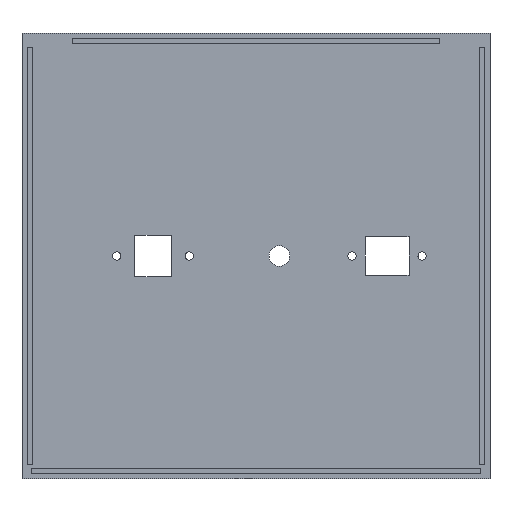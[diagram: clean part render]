
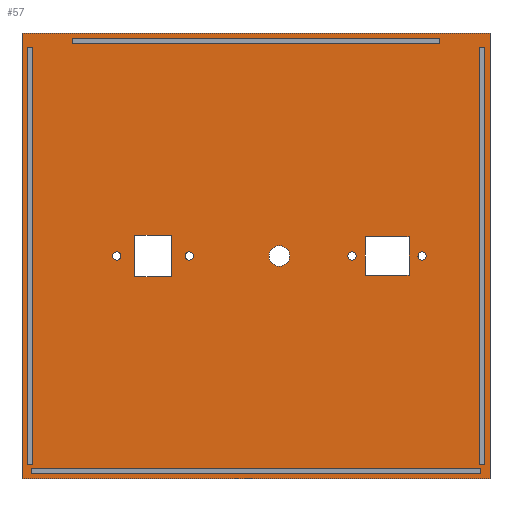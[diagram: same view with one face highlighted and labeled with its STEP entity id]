
A CAD part, front view. The second image highlights one B-rep face of the part: STEP entity #57.
In plain terms, the highlighted planar face has unit normal (0, -1, 0).
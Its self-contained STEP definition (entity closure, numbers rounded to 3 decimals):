
#21 = EDGE_CURVE('',#22,#24,#26,.T.);
#22 = VERTEX_POINT('',#23);
#23 = CARTESIAN_POINT('',(0.,216.,0.));
#24 = VERTEX_POINT('',#25);
#25 = CARTESIAN_POINT('',(0.,216.,172.27));
#26 = LINE('',#27,#28);
#27 = CARTESIAN_POINT('',(0.,216.,0.));
#28 = VECTOR('',#29,1.);
#29 = DIRECTION('',(0.,0.,1.));
#57 = ADVANCED_FACE('',(#58,#83,#117,#128,#162,#173,#207,#218,#229,#263,
    #297,#308),#342,.F.);
#58 = FACE_BOUND('',#59,.F.);
#59 = EDGE_LOOP('',(#60,#68,#69,#77));
#60 = ORIENTED_EDGE('',*,*,#61,.F.);
#61 = EDGE_CURVE('',#22,#62,#64,.T.);
#62 = VERTEX_POINT('',#63);
#63 = CARTESIAN_POINT('',(180.9,216.,0.));
#64 = LINE('',#65,#66);
#65 = CARTESIAN_POINT('',(0.,216.,0.));
#66 = VECTOR('',#67,1.);
#67 = DIRECTION('',(1.,0.,-0.));
#68 = ORIENTED_EDGE('',*,*,#21,.T.);
#69 = ORIENTED_EDGE('',*,*,#70,.T.);
#70 = EDGE_CURVE('',#24,#71,#73,.T.);
#71 = VERTEX_POINT('',#72);
#72 = CARTESIAN_POINT('',(180.9,216.,172.27));
#73 = LINE('',#74,#75);
#74 = CARTESIAN_POINT('',(0.,216.,172.27));
#75 = VECTOR('',#76,1.);
#76 = DIRECTION('',(1.,0.,-0.));
#77 = ORIENTED_EDGE('',*,*,#78,.F.);
#78 = EDGE_CURVE('',#62,#71,#79,.T.);
#79 = LINE('',#80,#81);
#80 = CARTESIAN_POINT('',(180.9,216.,0.));
#81 = VECTOR('',#82,1.);
#82 = DIRECTION('',(0.,0.,1.));
#83 = FACE_BOUND('',#84,.F.);
#84 = EDGE_LOOP('',(#85,#95,#103,#111));
#85 = ORIENTED_EDGE('',*,*,#86,.F.);
#86 = EDGE_CURVE('',#87,#89,#91,.T.);
#87 = VERTEX_POINT('',#88);
#88 = CARTESIAN_POINT('',(2.,216.,5.5));
#89 = VERTEX_POINT('',#90);
#90 = CARTESIAN_POINT('',(2.,216.,166.77));
#91 = LINE('',#92,#93);
#92 = CARTESIAN_POINT('',(2.,216.,5.5));
#93 = VECTOR('',#94,1.);
#94 = DIRECTION('',(0.,0.,1.));
#95 = ORIENTED_EDGE('',*,*,#96,.T.);
#96 = EDGE_CURVE('',#87,#97,#99,.T.);
#97 = VERTEX_POINT('',#98);
#98 = CARTESIAN_POINT('',(4.,216.,5.5));
#99 = LINE('',#100,#101);
#100 = CARTESIAN_POINT('',(2.,216.,5.5));
#101 = VECTOR('',#102,1.);
#102 = DIRECTION('',(1.,0.,-0.));
#103 = ORIENTED_EDGE('',*,*,#104,.T.);
#104 = EDGE_CURVE('',#97,#105,#107,.T.);
#105 = VERTEX_POINT('',#106);
#106 = CARTESIAN_POINT('',(4.,216.,166.77));
#107 = LINE('',#108,#109);
#108 = CARTESIAN_POINT('',(4.,216.,5.5));
#109 = VECTOR('',#110,1.);
#110 = DIRECTION('',(0.,0.,1.));
#111 = ORIENTED_EDGE('',*,*,#112,.F.);
#112 = EDGE_CURVE('',#89,#105,#113,.T.);
#113 = LINE('',#114,#115);
#114 = CARTESIAN_POINT('',(2.,216.,166.77));
#115 = VECTOR('',#116,1.);
#116 = DIRECTION('',(1.,0.,-0.));
#117 = FACE_BOUND('',#118,.F.);
#118 = EDGE_LOOP('',(#119));
#119 = ORIENTED_EDGE('',*,*,#120,.F.);
#120 = EDGE_CURVE('',#121,#121,#123,.T.);
#121 = VERTEX_POINT('',#122);
#122 = CARTESIAN_POINT('',(36.652,216.,87.735));
#123 = CIRCLE('',#124,1.6);
#124 = AXIS2_PLACEMENT_3D('',#125,#126,#127);
#125 = CARTESIAN_POINT('',(36.652,216.,86.135));
#126 = DIRECTION('',(0.,1.,0.));
#127 = DIRECTION('',(0.,-0.,1.));
#128 = FACE_BOUND('',#129,.F.);
#129 = EDGE_LOOP('',(#130,#140,#148,#156));
#130 = ORIENTED_EDGE('',*,*,#131,.F.);
#131 = EDGE_CURVE('',#132,#134,#136,.T.);
#132 = VERTEX_POINT('',#133);
#133 = CARTESIAN_POINT('',(43.652,216.,94.135));
#134 = VERTEX_POINT('',#135);
#135 = CARTESIAN_POINT('',(57.652,216.,94.135));
#136 = LINE('',#137,#138);
#137 = CARTESIAN_POINT('',(21.826,216.,94.135));
#138 = VECTOR('',#139,1.);
#139 = DIRECTION('',(1.,0.,-0.));
#140 = ORIENTED_EDGE('',*,*,#141,.T.);
#141 = EDGE_CURVE('',#132,#142,#144,.T.);
#142 = VERTEX_POINT('',#143);
#143 = CARTESIAN_POINT('',(43.652,216.,78.135));
#144 = LINE('',#145,#146);
#145 = CARTESIAN_POINT('',(43.652,216.,39.068));
#146 = VECTOR('',#147,1.);
#147 = DIRECTION('',(-0.,0.,-1.));
#148 = ORIENTED_EDGE('',*,*,#149,.T.);
#149 = EDGE_CURVE('',#142,#150,#152,.T.);
#150 = VERTEX_POINT('',#151);
#151 = CARTESIAN_POINT('',(57.652,216.,78.135));
#152 = LINE('',#153,#154);
#153 = CARTESIAN_POINT('',(21.826,216.,78.135));
#154 = VECTOR('',#155,1.);
#155 = DIRECTION('',(1.,0.,-0.));
#156 = ORIENTED_EDGE('',*,*,#157,.F.);
#157 = EDGE_CURVE('',#134,#150,#158,.T.);
#158 = LINE('',#159,#160);
#159 = CARTESIAN_POINT('',(57.652,216.,39.068));
#160 = VECTOR('',#161,1.);
#161 = DIRECTION('',(-0.,0.,-1.));
#162 = FACE_BOUND('',#163,.F.);
#163 = EDGE_LOOP('',(#164));
#164 = ORIENTED_EDGE('',*,*,#165,.F.);
#165 = EDGE_CURVE('',#166,#166,#168,.T.);
#166 = VERTEX_POINT('',#167);
#167 = CARTESIAN_POINT('',(64.652,216.,87.735));
#168 = CIRCLE('',#169,1.6);
#169 = AXIS2_PLACEMENT_3D('',#170,#171,#172);
#170 = CARTESIAN_POINT('',(64.652,216.,86.135));
#171 = DIRECTION('',(0.,1.,0.));
#172 = DIRECTION('',(0.,-0.,1.));
#173 = FACE_BOUND('',#174,.F.);
#174 = EDGE_LOOP('',(#175,#185,#193,#201));
#175 = ORIENTED_EDGE('',*,*,#176,.F.);
#176 = EDGE_CURVE('',#177,#179,#181,.T.);
#177 = VERTEX_POINT('',#178);
#178 = CARTESIAN_POINT('',(3.5,216.,2.));
#179 = VERTEX_POINT('',#180);
#180 = CARTESIAN_POINT('',(3.5,216.,4.));
#181 = LINE('',#182,#183);
#182 = CARTESIAN_POINT('',(3.5,216.,2.));
#183 = VECTOR('',#184,1.);
#184 = DIRECTION('',(0.,0.,1.));
#185 = ORIENTED_EDGE('',*,*,#186,.T.);
#186 = EDGE_CURVE('',#177,#187,#189,.T.);
#187 = VERTEX_POINT('',#188);
#188 = CARTESIAN_POINT('',(177.4,216.,2.));
#189 = LINE('',#190,#191);
#190 = CARTESIAN_POINT('',(3.5,216.,2.));
#191 = VECTOR('',#192,1.);
#192 = DIRECTION('',(1.,0.,-0.));
#193 = ORIENTED_EDGE('',*,*,#194,.T.);
#194 = EDGE_CURVE('',#187,#195,#197,.T.);
#195 = VERTEX_POINT('',#196);
#196 = CARTESIAN_POINT('',(177.4,216.,4.));
#197 = LINE('',#198,#199);
#198 = CARTESIAN_POINT('',(177.4,216.,2.));
#199 = VECTOR('',#200,1.);
#200 = DIRECTION('',(0.,0.,1.));
#201 = ORIENTED_EDGE('',*,*,#202,.F.);
#202 = EDGE_CURVE('',#179,#195,#203,.T.);
#203 = LINE('',#204,#205);
#204 = CARTESIAN_POINT('',(3.5,216.,4.));
#205 = VECTOR('',#206,1.);
#206 = DIRECTION('',(1.,0.,-0.));
#207 = FACE_BOUND('',#208,.F.);
#208 = EDGE_LOOP('',(#209));
#209 = ORIENTED_EDGE('',*,*,#210,.F.);
#210 = EDGE_CURVE('',#211,#211,#213,.T.);
#211 = VERTEX_POINT('',#212);
#212 = CARTESIAN_POINT('',(99.495,216.,90.135));
#213 = CIRCLE('',#214,4.);
#214 = AXIS2_PLACEMENT_3D('',#215,#216,#217);
#215 = CARTESIAN_POINT('',(99.495,216.,86.135));
#216 = DIRECTION('',(0.,1.,0.));
#217 = DIRECTION('',(0.,-0.,1.));
#218 = FACE_BOUND('',#219,.F.);
#219 = EDGE_LOOP('',(#220));
#220 = ORIENTED_EDGE('',*,*,#221,.F.);
#221 = EDGE_CURVE('',#222,#222,#224,.T.);
#222 = VERTEX_POINT('',#223);
#223 = CARTESIAN_POINT('',(127.552,216.,87.735));
#224 = CIRCLE('',#225,1.6);
#225 = AXIS2_PLACEMENT_3D('',#226,#227,#228);
#226 = CARTESIAN_POINT('',(127.552,216.,86.135));
#227 = DIRECTION('',(0.,1.,0.));
#228 = DIRECTION('',(0.,-0.,1.));
#229 = FACE_BOUND('',#230,.F.);
#230 = EDGE_LOOP('',(#231,#241,#249,#257));
#231 = ORIENTED_EDGE('',*,*,#232,.F.);
#232 = EDGE_CURVE('',#233,#235,#237,.T.);
#233 = VERTEX_POINT('',#234);
#234 = CARTESIAN_POINT('',(19.5,216.,168.27));
#235 = VERTEX_POINT('',#236);
#236 = CARTESIAN_POINT('',(19.5,216.,170.27));
#237 = LINE('',#238,#239);
#238 = CARTESIAN_POINT('',(19.5,216.,168.27));
#239 = VECTOR('',#240,1.);
#240 = DIRECTION('',(0.,0.,1.));
#241 = ORIENTED_EDGE('',*,*,#242,.T.);
#242 = EDGE_CURVE('',#233,#243,#245,.T.);
#243 = VERTEX_POINT('',#244);
#244 = CARTESIAN_POINT('',(161.4,216.,168.27));
#245 = LINE('',#246,#247);
#246 = CARTESIAN_POINT('',(19.5,216.,168.27));
#247 = VECTOR('',#248,1.);
#248 = DIRECTION('',(1.,0.,-0.));
#249 = ORIENTED_EDGE('',*,*,#250,.T.);
#250 = EDGE_CURVE('',#243,#251,#253,.T.);
#251 = VERTEX_POINT('',#252);
#252 = CARTESIAN_POINT('',(161.4,216.,170.27));
#253 = LINE('',#254,#255);
#254 = CARTESIAN_POINT('',(161.4,216.,168.27));
#255 = VECTOR('',#256,1.);
#256 = DIRECTION('',(0.,0.,1.));
#257 = ORIENTED_EDGE('',*,*,#258,.F.);
#258 = EDGE_CURVE('',#235,#251,#259,.T.);
#259 = LINE('',#260,#261);
#260 = CARTESIAN_POINT('',(19.5,216.,170.27));
#261 = VECTOR('',#262,1.);
#262 = DIRECTION('',(1.,0.,-0.));
#263 = FACE_BOUND('',#264,.F.);
#264 = EDGE_LOOP('',(#265,#275,#283,#291));
#265 = ORIENTED_EDGE('',*,*,#266,.F.);
#266 = EDGE_CURVE('',#267,#269,#271,.T.);
#267 = VERTEX_POINT('',#268);
#268 = CARTESIAN_POINT('',(132.602,216.,93.635));
#269 = VERTEX_POINT('',#270);
#270 = CARTESIAN_POINT('',(149.602,216.,93.635));
#271 = LINE('',#272,#273);
#272 = CARTESIAN_POINT('',(66.301,216.,93.635));
#273 = VECTOR('',#274,1.);
#274 = DIRECTION('',(1.,0.,-0.));
#275 = ORIENTED_EDGE('',*,*,#276,.T.);
#276 = EDGE_CURVE('',#267,#277,#279,.T.);
#277 = VERTEX_POINT('',#278);
#278 = CARTESIAN_POINT('',(132.602,216.,78.635));
#279 = LINE('',#280,#281);
#280 = CARTESIAN_POINT('',(132.602,216.,39.318));
#281 = VECTOR('',#282,1.);
#282 = DIRECTION('',(-0.,0.,-1.));
#283 = ORIENTED_EDGE('',*,*,#284,.T.);
#284 = EDGE_CURVE('',#277,#285,#287,.T.);
#285 = VERTEX_POINT('',#286);
#286 = CARTESIAN_POINT('',(149.602,216.,78.635));
#287 = LINE('',#288,#289);
#288 = CARTESIAN_POINT('',(66.301,216.,78.635));
#289 = VECTOR('',#290,1.);
#290 = DIRECTION('',(1.,0.,-0.));
#291 = ORIENTED_EDGE('',*,*,#292,.F.);
#292 = EDGE_CURVE('',#269,#285,#293,.T.);
#293 = LINE('',#294,#295);
#294 = CARTESIAN_POINT('',(149.602,216.,39.318));
#295 = VECTOR('',#296,1.);
#296 = DIRECTION('',(-0.,0.,-1.));
#297 = FACE_BOUND('',#298,.F.);
#298 = EDGE_LOOP('',(#299));
#299 = ORIENTED_EDGE('',*,*,#300,.F.);
#300 = EDGE_CURVE('',#301,#301,#303,.T.);
#301 = VERTEX_POINT('',#302);
#302 = CARTESIAN_POINT('',(154.652,216.,87.735));
#303 = CIRCLE('',#304,1.6);
#304 = AXIS2_PLACEMENT_3D('',#305,#306,#307);
#305 = CARTESIAN_POINT('',(154.652,216.,86.135));
#306 = DIRECTION('',(0.,1.,0.));
#307 = DIRECTION('',(0.,-0.,1.));
#308 = FACE_BOUND('',#309,.F.);
#309 = EDGE_LOOP('',(#310,#320,#328,#336));
#310 = ORIENTED_EDGE('',*,*,#311,.F.);
#311 = EDGE_CURVE('',#312,#314,#316,.T.);
#312 = VERTEX_POINT('',#313);
#313 = CARTESIAN_POINT('',(176.9,216.,5.5));
#314 = VERTEX_POINT('',#315);
#315 = CARTESIAN_POINT('',(176.9,216.,166.77));
#316 = LINE('',#317,#318);
#317 = CARTESIAN_POINT('',(176.9,216.,5.5));
#318 = VECTOR('',#319,1.);
#319 = DIRECTION('',(0.,0.,1.));
#320 = ORIENTED_EDGE('',*,*,#321,.T.);
#321 = EDGE_CURVE('',#312,#322,#324,.T.);
#322 = VERTEX_POINT('',#323);
#323 = CARTESIAN_POINT('',(178.9,216.,5.5));
#324 = LINE('',#325,#326);
#325 = CARTESIAN_POINT('',(176.9,216.,5.5));
#326 = VECTOR('',#327,1.);
#327 = DIRECTION('',(1.,0.,-0.));
#328 = ORIENTED_EDGE('',*,*,#329,.T.);
#329 = EDGE_CURVE('',#322,#330,#332,.T.);
#330 = VERTEX_POINT('',#331);
#331 = CARTESIAN_POINT('',(178.9,216.,166.77));
#332 = LINE('',#333,#334);
#333 = CARTESIAN_POINT('',(178.9,216.,5.5));
#334 = VECTOR('',#335,1.);
#335 = DIRECTION('',(0.,0.,1.));
#336 = ORIENTED_EDGE('',*,*,#337,.F.);
#337 = EDGE_CURVE('',#314,#330,#338,.T.);
#338 = LINE('',#339,#340);
#339 = CARTESIAN_POINT('',(176.9,216.,166.77));
#340 = VECTOR('',#341,1.);
#341 = DIRECTION('',(1.,0.,-0.));
#342 = PLANE('',#343);
#343 = AXIS2_PLACEMENT_3D('',#344,#345,#346);
#344 = CARTESIAN_POINT('',(0.,216.,0.));
#345 = DIRECTION('',(-0.,1.,0.));
#346 = DIRECTION('',(0.,0.,1.));
